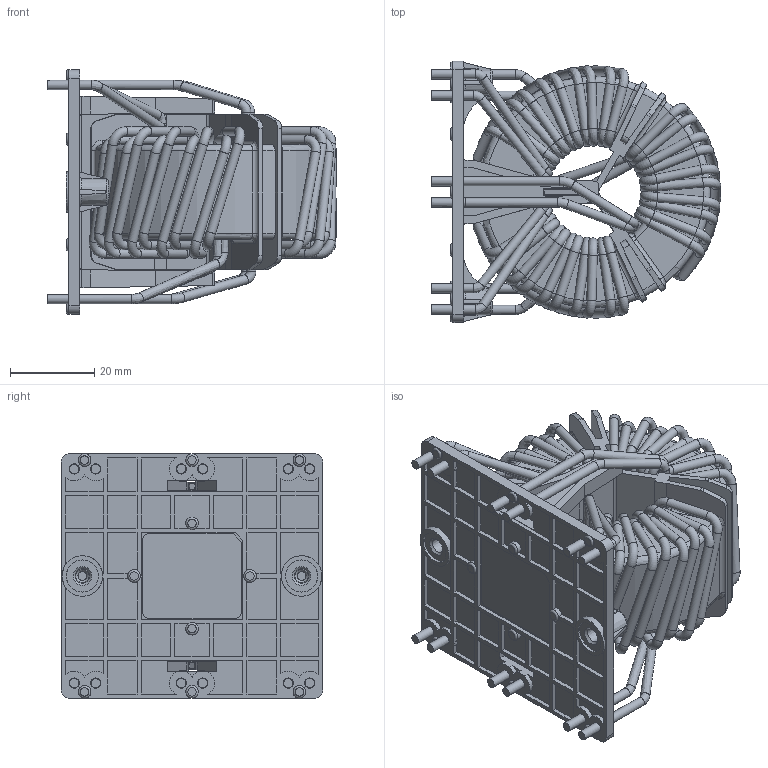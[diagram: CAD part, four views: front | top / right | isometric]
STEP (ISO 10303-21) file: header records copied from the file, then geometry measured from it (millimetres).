
FILE_DESCRIPTION((''),'2;1');
FILE_NAME('K:\Development\Projects\RB\Angel_standard choke series 2011\70_Realization_Revision\702_MechanicalDesign\RB6532-36-0M4 for customer_包覆面提取_1.stp','2013-02-17T15:03:50',('bin.fan'),(''),'Autodesk Inventor 2010','Autodesk Inventor 2010','');
FILE_SCHEMA(('AUTOMOTIVE_DESIGN { 1 0 10303 214 1 1 1 1 }'));
Length unit declared in the file: millimetre
Products named in the file (1): RB6532-36-0M4  for customer_包覆面提取_1
Bounding box: 68.64 x 62 x 58 mm (x, y, z)
Volume: 65887 mm3; surface area: 46839.1 mm2
Topology: 1 solids, 1 shells, 1064 faces, 3074 edges, 1933 vertices
Faces by surface type: bspline 302, plane 287, cylinder 256, torus 178, cone 41
Full cylindrical faces by diameter (mm): 2.2 x81, 2.4 x12, 3 x10, 9.6 x1
Entity records: 41355 total; most frequent: CARTESIAN_POINT 16427, ORIENTED_EDGE 5106, DIRECTION 4410, EDGE_CURVE 2553, VERTEX_POINT 1731, AXIS2_PLACEMENT_3D 1650, EDGE_LOOP 1406, VECTOR 1110
